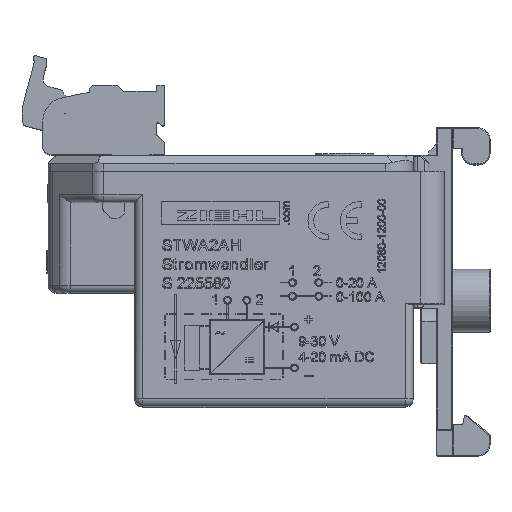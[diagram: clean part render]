
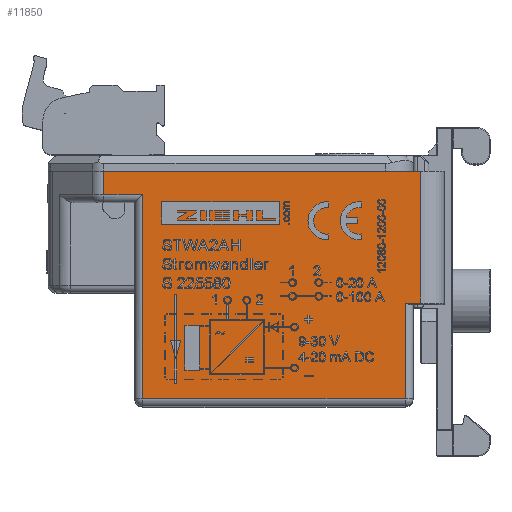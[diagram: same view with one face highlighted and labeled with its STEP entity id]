
A CAD part, top view. The second image highlights one B-rep face of the part: STEP entity #11850.
In plain terms, the highlighted planar face has unit normal (0, 0, 1).
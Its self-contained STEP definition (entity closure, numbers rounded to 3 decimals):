
#215 = VERTEX_POINT ( 'NONE', #42201 ) ;
#4997 = VECTOR ( 'NONE', #85277, 1000. ) ;
#5831 = EDGE_CURVE ( 'NONE', #21343, #40960, #12758, .T. ) ;
#7131 = LINE ( 'NONE', #51224, #4997 ) ;
#8081 = VERTEX_POINT ( 'NONE', #48228 ) ;
#8289 = EDGE_LOOP ( 'NONE', ( #26324, #25575, #9146, #75319, #65472, #17945, #55718, #61152 ) ) ;
#9146 = ORIENTED_EDGE ( 'NONE', *, *, #34396, .T. ) ;
#9650 = DIRECTION ( 'NONE',  ( 0., 0., -1. ) ) ;
#9759 = VECTOR ( 'NONE', #9811, 1000. ) ;
#9811 = DIRECTION ( 'NONE',  ( 0., -1., 0. ) ) ;
#10191 = CARTESIAN_POINT ( 'NONE',  ( 36.5, 30., 0. ) ) ;
#11649 = VECTOR ( 'NONE', #56589, 1000. ) ;
#11850 = ADVANCED_FACE ( 'NONE', ( #49796 ), #50246, .F. ) ;
#12758 = LINE ( 'NONE', #30901, #28690 ) ;
#13476 = CARTESIAN_POINT ( 'NONE',  ( 34.5, 30., 0. ) ) ;
#17399 = CARTESIAN_POINT ( 'NONE',  ( -3.922, 30., 0. ) ) ;
#17945 = ORIENTED_EDGE ( 'NONE', *, *, #21238, .T. ) ;
#21238 = EDGE_CURVE ( 'NONE', #86132, #80845, #87750, .T. ) ;
#21343 = VERTEX_POINT ( 'NONE', #17399 ) ;
#25543 = EDGE_CURVE ( 'NONE', #21343, #86132, #79751, .T. ) ;
#25575 = ORIENTED_EDGE ( 'NONE', *, *, #32965, .T. ) ;
#26324 = ORIENTED_EDGE ( 'NONE', *, *, #44205, .T. ) ;
#26608 = AXIS2_PLACEMENT_3D ( 'NONE', #77259, #9650, #57104 ) ;
#27573 = DIRECTION ( 'NONE',  ( 0., -1., 0. ) ) ;
#28690 = VECTOR ( 'NONE', #37711, 1000. ) ;
#30901 = CARTESIAN_POINT ( 'NONE',  ( 0., 30., 0. ) ) ;
#32965 = EDGE_CURVE ( 'NONE', #52590, #50944, #47763, .T. ) ;
#33880 = CARTESIAN_POINT ( 'NONE',  ( -3.922, 27., 0. ) ) ;
#34396 = EDGE_CURVE ( 'NONE', #50944, #40960, #7131, .T. ) ;
#36186 = CARTESIAN_POINT ( 'NONE',  ( 0., 13.2, 0. ) ) ;
#37711 = DIRECTION ( 'NONE',  ( 1., 0., 0. ) ) ;
#38431 = CARTESIAN_POINT ( 'NONE',  ( 34.5, 13.2, 0. ) ) ;
#39956 = VECTOR ( 'NONE', #68016, 1000. ) ;
#40960 = VERTEX_POINT ( 'NONE', #10191 ) ;
#42201 = CARTESIAN_POINT ( 'NONE',  ( 34.5, 1., 0. ) ) ;
#43066 = CARTESIAN_POINT ( 'NONE',  ( -3.922, 26., 0. ) ) ;
#43239 = DIRECTION ( 'NONE',  ( 1., 0., 0. ) ) ;
#43394 = EDGE_CURVE ( 'NONE', #8081, #215, #85609, .T. ) ;
#43988 = DIRECTION ( 'NONE',  ( 1., 0., 0. ) ) ;
#44205 = EDGE_CURVE ( 'NONE', #215, #52590, #75970, .T. ) ;
#46542 = EDGE_CURVE ( 'NONE', #80845, #8081, #58716, .T. ) ;
#47763 = LINE ( 'NONE', #36186, #11649 ) ;
#48228 = CARTESIAN_POINT ( 'NONE',  ( 1., 1., 0. ) ) ;
#49581 = VECTOR ( 'NONE', #43988, 1000. ) ;
#49796 = FACE_OUTER_BOUND ( 'NONE', #8289, .T. ) ;
#50246 = PLANE ( 'NONE',  #26608 ) ;
#50754 = CARTESIAN_POINT ( 'NONE',  ( 35.5, 1., 0. ) ) ;
#50944 = VERTEX_POINT ( 'NONE', #51418 ) ;
#51224 = CARTESIAN_POINT ( 'NONE',  ( 36.5, 30., 0. ) ) ;
#51418 = CARTESIAN_POINT ( 'NONE',  ( 36.5, 13.2, 0. ) ) ;
#51676 = VECTOR ( 'NONE', #43239, 1000. ) ;
#52590 = VERTEX_POINT ( 'NONE', #38431 ) ;
#55718 = ORIENTED_EDGE ( 'NONE', *, *, #46542, .T. ) ;
#56580 = VECTOR ( 'NONE', #27573, 1000. ) ;
#56589 = DIRECTION ( 'NONE',  ( 1., 0., 0. ) ) ;
#57104 = DIRECTION ( 'NONE',  ( -1., 0., 0. ) ) ;
#58716 = LINE ( 'NONE', #61296, #56580 ) ;
#59624 = CARTESIAN_POINT ( 'NONE',  ( 1., 27., 0. ) ) ;
#61152 = ORIENTED_EDGE ( 'NONE', *, *, #43394, .T. ) ;
#61296 = CARTESIAN_POINT ( 'NONE',  ( 1., 30., 0. ) ) ;
#65472 = ORIENTED_EDGE ( 'NONE', *, *, #25543, .T. ) ;
#68016 = DIRECTION ( 'NONE',  ( 0., 1., 0. ) ) ;
#75319 = ORIENTED_EDGE ( 'NONE', *, *, #5831, .F. ) ;
#75970 = LINE ( 'NONE', #13476, #39956 ) ;
#77259 = CARTESIAN_POINT ( 'NONE',  ( 0., 30., 0. ) ) ;
#79751 = LINE ( 'NONE', #43066, #9759 ) ;
#80845 = VERTEX_POINT ( 'NONE', #59624 ) ;
#83774 = CARTESIAN_POINT ( 'NONE',  ( 0., 27., 0. ) ) ;
#85277 = DIRECTION ( 'NONE',  ( 0., 1., 0. ) ) ;
#85609 = LINE ( 'NONE', #50754, #49581 ) ;
#86132 = VERTEX_POINT ( 'NONE', #33880 ) ;
#87750 = LINE ( 'NONE', #83774, #51676 ) ;
